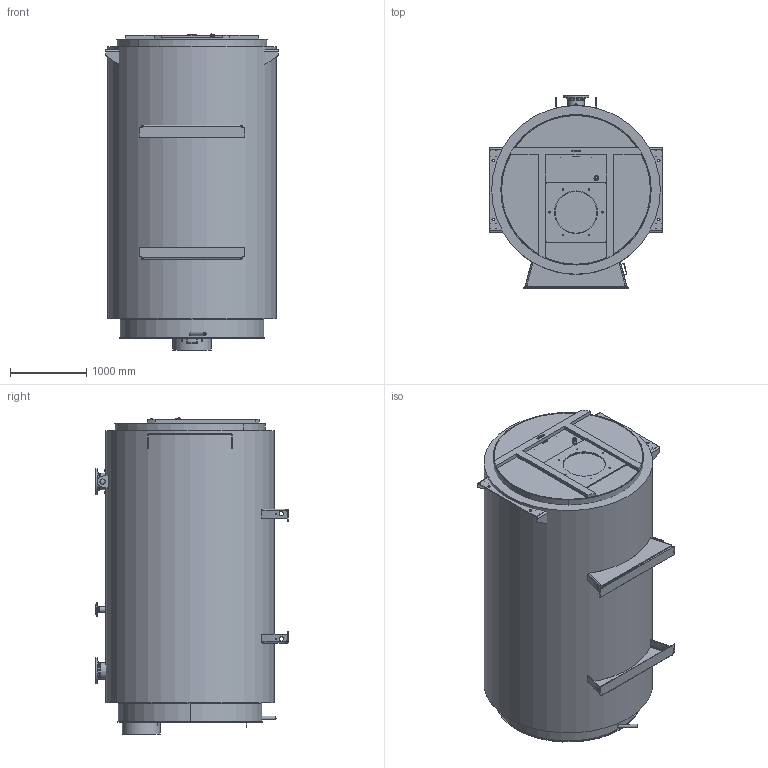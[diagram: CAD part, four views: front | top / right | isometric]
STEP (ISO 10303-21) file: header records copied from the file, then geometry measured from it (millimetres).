
FILE_DESCRIPTION(('TFLEX Exchange Step'),'2;1');
FILE_NAME('M22A028_7632987_T001.stp', '2024-08-09T15:16:31+03:00',('kort'),('Unknown organisation'),'TFLEX Exchange 2024.2','T-FLEX CAD','Unknown authorisation');
FILE_SCHEMA( ('AP242_MANAGED_MODEL_BASED_3D_ENGINEERING_MIM_LF {1 0 10303 442 1 1 4 }') );
Length unit declared in the file: millimetre
Products named in the file (1): 7632987 Котел M22A028
Bounding box: 2270 x 2525 x 4149.64 mm (x, y, z)
Topology: 107 solids, 107 shells, 1246 faces, 3091 edges, 2085 vertices
Faces by surface type: plane 618, cylinder 401, bspline 119, cone 75, torus 27, sphere 6
Full cylindrical faces by diameter (mm): 1 x16, 2.2 x4, 3 x2, 3.2 x4, 3.3 x4, 4 x4, 6.5 x4, 10 x9, 11.45 x1, 12 x12, 13 x4, 14 x4, 14.63 x6, 16 x10, 18 x4, 22 x30, 24 x4, 32 x4, 35 x3, 40 x2, 41.1 x1, 41.45 x1, 44.8 x1, 45 x4, 47.8 x1, 48 x1, 48.3 x1, 60 x4, 67.1 x1, 70 x2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
Entity records: 51483 total; most frequent: CARTESIAN_POINT 19931, ORIENTED_EDGE 6138, DIRECTION 6046, EDGE_CURVE 3069, AXIS2_PLACEMENT_3D 2237, VERTEX_POINT 2085, VECTOR 1572, LINE 1572
